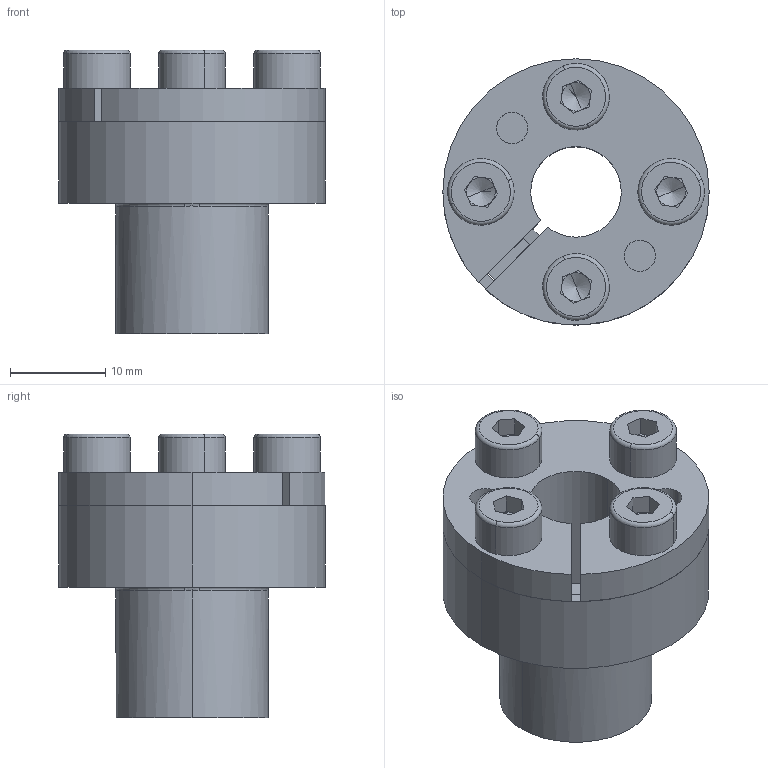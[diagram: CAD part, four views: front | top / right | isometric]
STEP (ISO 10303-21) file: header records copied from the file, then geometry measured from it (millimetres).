
FILE_DESCRIPTION (( 'STEP AP214' ), '1' );
FILE_NAME ('CONEX-B-09.525x16.STEP', '2018-05-23T13:17:24', ( 'user' ), ( '' ), 'SwSTEP 2.0', 'SolidWorks 2018', '' );
FILE_SCHEMA (( 'AUTOMOTIVE_DESIGN' ));
Length unit declared in the file: millimetre
Products named in the file (1): CONEX-B-09.525x16
Bounding box: 28 x 28 x 29.84 mm (x, y, z)
Volume: 7637.9 mm3; surface area: 8807.9 mm2
Topology: 7 solids, 7 shells, 174 faces, 430 edges, 260 vertices
Faces by surface type: plane 72, cylinder 52, torus 24, cone 22, bspline 4
Entity records: 5756 total; most frequent: CARTESIAN_POINT 1361, DIRECTION 946, ORIENTED_EDGE 844, EDGE_CURVE 422, AXIS2_PLACEMENT_3D 381, VERTEX_POINT 260, CIRCLE 210, EDGE_LOOP 194
